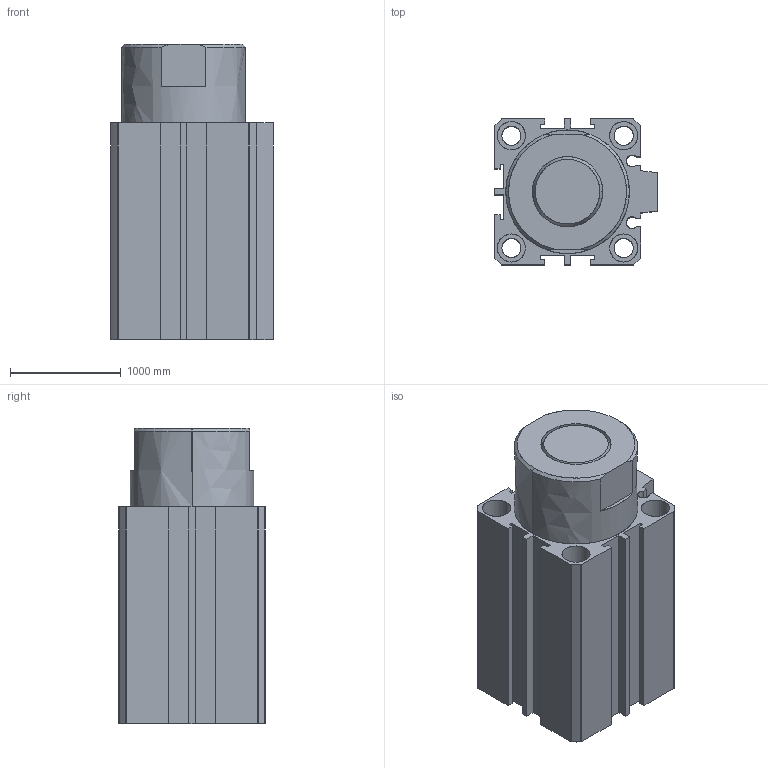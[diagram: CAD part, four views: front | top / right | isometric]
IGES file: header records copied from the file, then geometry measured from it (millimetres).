
Start section: SolidWorks IGES file using analytic representation for surfaces
Global section: file name: C:\Documents and Settings\Standard\Bureau\NM pieces 3d\ELO 40 25 tige entrée.IGS; native system: SolidWorks 2007; preprocessor: SolidWorks 2007; author: Standard; date: 080328.104049; units: inch
Bounding box: 1473.2 x 1320.8 x 2672.08 mm (x, y, z)
Surface area: 33237853.1 mm2 (no closed solid volume)
Topology: 0 solids, 0 shells, 538 faces, 13389 edges, 13427 vertices
Faces by surface type: bspline 483, revolution 55
